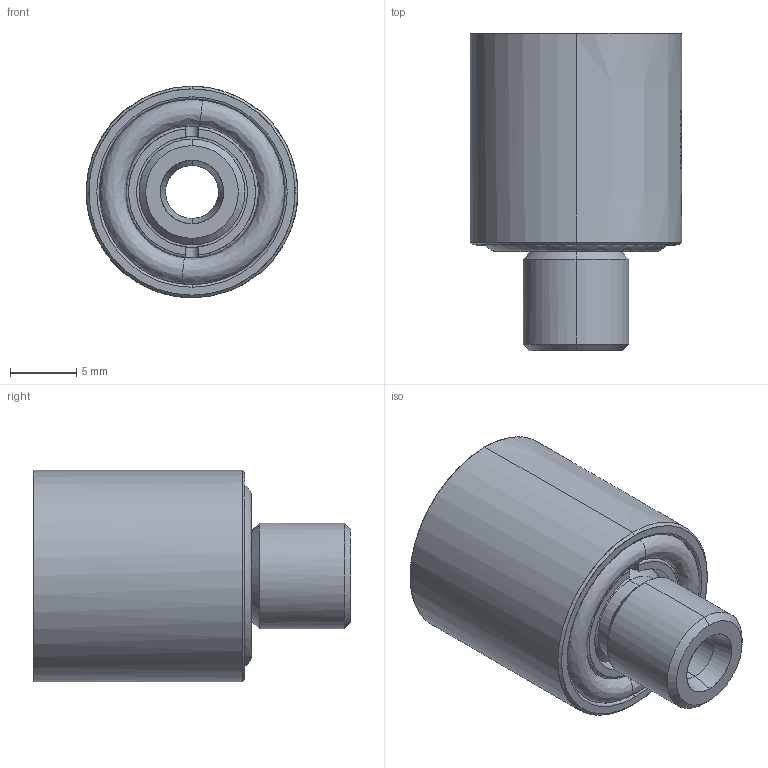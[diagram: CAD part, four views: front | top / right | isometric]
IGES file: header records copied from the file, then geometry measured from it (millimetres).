
Start section: START RECORD GO HERE.
Global section: file name: sa160416.igs; native system: DASSAULT SYSTEMES CATIA V5 R20 - www.3ds.com; preprocessor: CATIA Version 5 Release 20 ; author: Utente; organization: NB04-ASUS; date: 20201107.131827; units: millimetre
Bounding box: 16 x 24 x 16 mm (x, y, z)
Surface area: 3090.4 mm2 (no closed solid volume)
Topology: 0 solids, 0 shells, 494 faces, 2728 edges, 2728 vertices
Faces by surface type: bspline 285, plane 111, revolution 98
